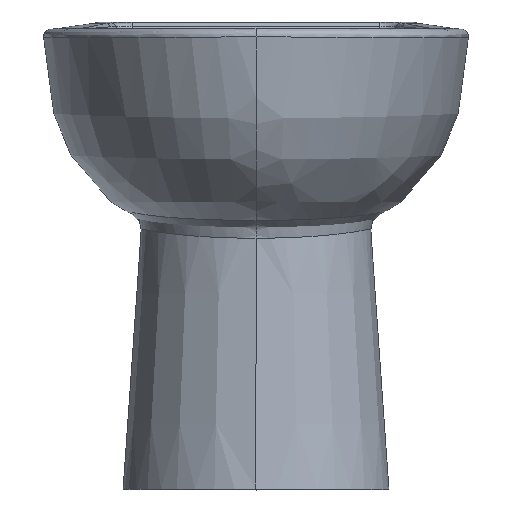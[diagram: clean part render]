
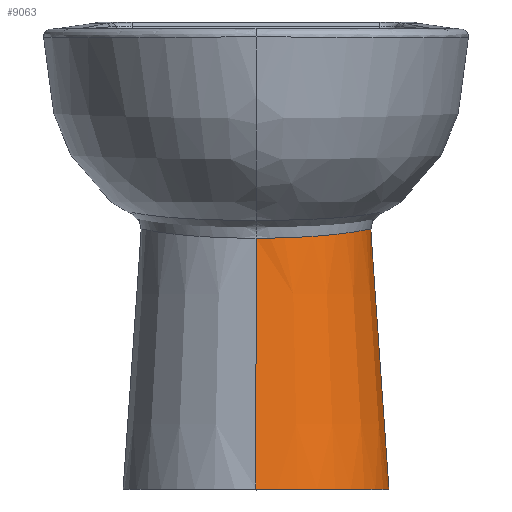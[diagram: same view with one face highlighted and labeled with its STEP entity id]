
A CAD part, top view. The second image highlights one B-rep face of the part: STEP entity #9063.
In plain terms, the highlighted conical face has half-angle 4 degrees and reference radius 115.565 mm.
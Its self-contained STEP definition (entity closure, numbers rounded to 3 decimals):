
#945 = ORIENTED_EDGE ( 'NONE', *, *, #131306, .T. ) ;
#1107 = EDGE_LOOP ( 'NONE', ( #36677, #97205, #132203, #945 ) ) ;
#3527 = VERTEX_POINT ( 'NONE', #88360 ) ;
#5943 = CARTESIAN_POINT ( 'NONE',  ( 57.622, -169.71, 181.027 ) ) ;
#6631 = CARTESIAN_POINT ( 'NONE',  ( 90.193, -165.558, 142.11 ) ) ;
#8030 = CARTESIAN_POINT ( 'NONE',  ( 50.672, -170.267, 185.603 ) ) ;
#9063 = ADVANCED_FACE ( 'NONE', ( #119814 ), #72780, .T. ) ;
#11537 = CARTESIAN_POINT ( 'NONE',  ( 0., -390., 214.662 ) ) ;
#11613 = AXIS2_PLACEMENT_3D ( 'NONE', #130475, #23283, #55235 ) ;
#11827 = DIRECTION ( 'NONE',  ( 0., -0.998, 0.07 ) ) ;
#16588 = CARTESIAN_POINT ( 'NONE',  ( 26.325, -171.536, 195.883 ) ) ;
#17271 = CARTESIAN_POINT ( 'NONE',  ( 99.178, -163.965, 110.348 ) ) ;
#17966 = CARTESIAN_POINT ( 'NONE',  ( 21.465, -171.686, 197.086 ) ) ;
#18669 = CARTESIAN_POINT ( 'NONE',  ( 81.918, -166.935, 156.417 ) ) ;
#23283 = DIRECTION ( 'NONE',  ( 0., -1., 0. ) ) ;
#27909 = CARTESIAN_POINT ( 'NONE',  ( 41.909, -170.835, 190.215 ) ) ;
#29300 = CARTESIAN_POINT ( 'NONE',  ( 95.703, -164.338, 127.357 ) ) ;
#30003 = CARTESIAN_POINT ( 'NONE',  ( 32.717, -171.295, 193.939 ) ) ;
#36677 = ORIENTED_EDGE ( 'NONE', *, *, #90434, .T. ) ;
#37267 = DIRECTION ( 'NONE',  ( -0.07, 0.998, 0.001 ) ) ;
#37503 = B_SPLINE_CURVE_WITH_KNOTS ( 'NONE', 3,
 ( #110301, #114484, #37867, #17271, #38558, #60558, #81171, #29300, #103846, #72614, #70524, #83943, #93189, #104544, #6631, #125151, #116581, #115877, #18669, #50607, #136498, #59186, #103157, #39252, #113798, #124459, #51299, #82549, #127246, #5943, #81857, #137891, #8030, #71911, #27909, #115180, #30003, #48525, #16588, #94583, #17966, #59869, #49214, #92499, #61256, #102472 ),
 .UNSPECIFIED., .F., .F.,
 ( 4, 2, 2, 2, 2, 2, 2, 2, 2, 2, 2, 2, 2, 2, 2, 2, 2, 2, 2, 2, 2, 2, 4 ),
 ( 0., 0.01, 0.02, 0.03, 0.032, 0.035, 0.04, 0.05, 0.059, 0.064, 0.069, 0.079, 0.089, 0.094, 0.097, 0.099, 0.109, 0.119, 0.129, 0.134, 0.139, 0.149, 0.158 ),
 .UNSPECIFIED. ) ;
#37867 = CARTESIAN_POINT ( 'NONE',  ( 99.721, -164.203, 103.759 ) ) ;
#38558 = CARTESIAN_POINT ( 'NONE',  ( 98.747, -163.91, 113.621 ) ) ;
#39252 = CARTESIAN_POINT ( 'NONE',  ( 69.115, -168.587, 171.557 ) ) ;
#46221 = AXIS2_PLACEMENT_3D ( 'NONE', #93328, #50049, #136637 ) ;
#48525 = CARTESIAN_POINT ( 'NONE',  ( 27.939, -171.479, 195.425 ) ) ;
#49214 = CARTESIAN_POINT ( 'NONE',  ( 13.293, -171.874, 198.58 ) ) ;
#50049 = DIRECTION ( 'NONE',  ( 0., -1., 0. ) ) ;
#50607 = CARTESIAN_POINT ( 'NONE',  ( 79.975, -167.217, 159.131 ) ) ;
#51299 = CARTESIAN_POINT ( 'NONE',  ( 61.625, -169.351, 178.041 ) ) ;
#53696 = LINE ( 'NONE', #97673, #83056 ) ;
#55235 = DIRECTION ( 'NONE',  ( 0., 0., 1. ) ) ;
#57189 = LINE ( 'NONE', #111103, #66896 ) ;
#59186 = CARTESIAN_POINT ( 'NONE',  ( 75.881, -167.775, 164.351 ) ) ;
#59869 = CARTESIAN_POINT ( 'NONE',  ( 16.575, -171.811, 198.081 ) ) ;
#60558 = CARTESIAN_POINT ( 'NONE',  ( 97.574, -163.964, 120.121 ) ) ;
#61256 = CARTESIAN_POINT ( 'NONE',  ( 3.352, -171.983, 199.417 ) ) ;
#66896 = VECTOR ( 'NONE', #37267, 1000. ) ;
#70524 = CARTESIAN_POINT ( 'NONE',  ( 94.721, -164.587, 130.549 ) ) ;
#71911 = CARTESIAN_POINT ( 'NONE',  ( 44.877, -170.658, 188.776 ) ) ;
#72614 = CARTESIAN_POINT ( 'NONE',  ( 94.976, -164.525, 129.755 ) ) ;
#72780 = CONICAL_SURFACE ( 'NONE', #11613, 115.565, 0.07 ) ;
#81171 = CARTESIAN_POINT ( 'NONE',  ( 96.831, -164.073, 123.35 ) ) ;
#81857 = CARTESIAN_POINT ( 'NONE',  ( 56.938, -169.768, 181.509 ) ) ;
#82483 = CIRCLE ( 'NONE', #46221, 115.565 ) ;
#82549 = CARTESIAN_POINT ( 'NONE',  ( 59.642, -169.532, 179.553 ) ) ;
#83056 = VECTOR ( 'NONE', #11827, 1000. ) ;
#83943 = CARTESIAN_POINT ( 'NONE',  ( 93.927, -164.777, 132.916 ) ) ;
#88360 = CARTESIAN_POINT ( 'NONE',  ( 0., -171.983, 199.417 ) ) ;
#90434 = EDGE_CURVE ( 'NONE', #133814, #3527, #37503, .T. ) ;
#90840 = VERTEX_POINT ( 'NONE', #98616 ) ;
#92499 = CARTESIAN_POINT ( 'NONE',  ( 6.681, -171.96, 199.247 ) ) ;
#93189 = CARTESIAN_POINT ( 'NONE',  ( 93.36, -164.905, 134.476 ) ) ;
#93328 = CARTESIAN_POINT ( 'NONE',  ( 0., -390., 99.097 ) ) ;
#93703 = VERTEX_POINT ( 'NONE', #11537 ) ;
#94583 = CARTESIAN_POINT ( 'NONE',  ( 23.088, -171.639, 196.713 ) ) ;
#97205 = ORIENTED_EDGE ( 'NONE', *, *, #112395, .T. ) ;
#97673 = CARTESIAN_POINT ( 'NONE',  ( 0., -390., 214.662 ) ) ;
#98616 = CARTESIAN_POINT ( 'NONE',  ( 115.542, -390., 96.787 ) ) ;
#102472 = CARTESIAN_POINT ( 'NONE',  ( 0., -171.983, 199.417 ) ) ;
#103157 = CARTESIAN_POINT ( 'NONE',  ( 73.702, -168.05, 166.83 ) ) ;
#103846 = CARTESIAN_POINT ( 'NONE',  ( 95.468, -164.4, 128.158 ) ) ;
#104544 = CARTESIAN_POINT ( 'NONE',  ( 91.548, -165.293, 139.101 ) ) ;
#107345 = CARTESIAN_POINT ( 'NONE',  ( 99.785, -164.626, 97.102 ) ) ;
#110301 = CARTESIAN_POINT ( 'NONE',  ( 99.785, -164.626, 97.102 ) ) ;
#111103 = CARTESIAN_POINT ( 'NONE',  ( 115.542, -390., 96.787 ) ) ;
#112395 = EDGE_CURVE ( 'NONE', #3527, #93703, #53696, .T. ) ;
#113798 = CARTESIAN_POINT ( 'NONE',  ( 66.706, -168.848, 173.805 ) ) ;
#114484 = CARTESIAN_POINT ( 'NONE',  ( 99.835, -164.387, 100.442 ) ) ;
#115180 = CARTESIAN_POINT ( 'NONE',  ( 35.828, -171.154, 192.797 ) ) ;
#115877 = CARTESIAN_POINT ( 'NONE',  ( 82.854, -166.795, 155.038 ) ) ;
#116581 = CARTESIAN_POINT ( 'NONE',  ( 85.546, -166.375, 150.851 ) ) ;
#118937 = EDGE_CURVE ( 'NONE', #90840, #93703, #82483, .T. ) ;
#119814 = FACE_OUTER_BOUND ( 'NONE', #1107, .T. ) ;
#124459 = CARTESIAN_POINT ( 'NONE',  ( 62.917, -169.227, 177.004 ) ) ;
#125151 = CARTESIAN_POINT ( 'NONE',  ( 87.192, -166.099, 147.985 ) ) ;
#127246 = CARTESIAN_POINT ( 'NONE',  ( 58.974, -169.592, 180.049 ) ) ;
#130475 = CARTESIAN_POINT ( 'NONE',  ( 0., -390., 99.097 ) ) ;
#131306 = EDGE_CURVE ( 'NONE', #90840, #133814, #57189, .T. ) ;
#132203 = ORIENTED_EDGE ( 'NONE', *, *, #118937, .F. ) ;
#133814 = VERTEX_POINT ( 'NONE', #107345 ) ;
#136498 = CARTESIAN_POINT ( 'NONE',  ( 78.973, -167.358, 160.458 ) ) ;
#136637 = DIRECTION ( 'NONE',  ( 0., 0., -1. ) ) ;
#137891 = CARTESIAN_POINT ( 'NONE',  ( 53.498, -170.055, 183.868 ) ) ;
